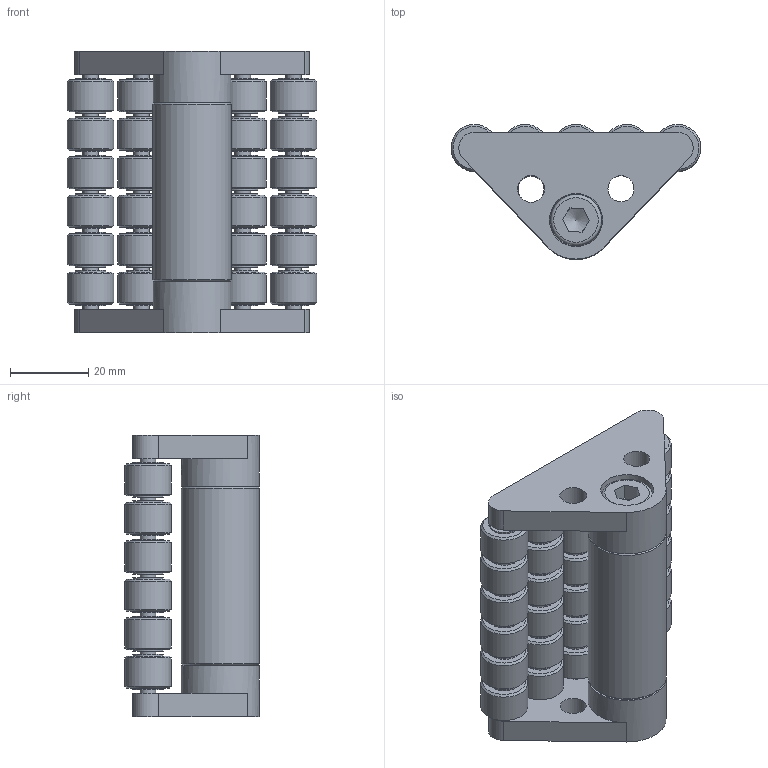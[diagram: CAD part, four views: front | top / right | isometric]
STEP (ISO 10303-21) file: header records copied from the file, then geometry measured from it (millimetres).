
FILE_DESCRIPTION(/* description */ ('RULLÖVERGÅNG STD S520'),/* implementation_level */ '2;1');
FILE_NAME(/* name */ '500-7000.stp',/* time_stamp */ '2022-09-22T10:26:38+02:00',/* author */ ('MD'),/* organization */ ('CARRYLINE'),/* preprocessor_version */ 'ST-DEVELOPER v19.2',/* originating_system */ 'Autodesk Inventor 2023',/* authorisation */ '');
FILE_SCHEMA (('AUTOMOTIVE_DESIGN { 1 0 10303 214 3 1 1 }'));
Length unit declared in the file: millimetre
Products named in the file (6): 500-7000; 15960; 13049_1; 13049_4; 5510-820; 15959
Assembly tree (40 placements, depth 2):
  500-7000
    15960  x2
    13049_1  x5
    13049_4
    5510-820  x2
    15959  x30
Bounding box: 63.97 x 34.49 x 72 mm (x, y, z)
Volume: 61209.2 mm3; surface area: 39036.5 mm2
Topology: 40 solids, 40 shells, 409 faces, 691 edges, 436 vertices
Faces by surface type: plane 174, cylinder 153, cone 78, torus 4
Full cylindrical faces by diameter (mm): 4 x45, 6.647 x3, 6.912 x2, 7.8 x60, 8 x4, 12 x30, 13 x2, 20 x3
Entity records: 2082 total; most frequent: DIRECTION 377, CARTESIAN_POINT 310, ORIENTED_EDGE 230, AXIS2_PLACEMENT_3D 163, EDGE_CURVE 115, EDGE_LOOP 80, VERTEX_POINT 75, FACE_OUTER_BOUND 60
